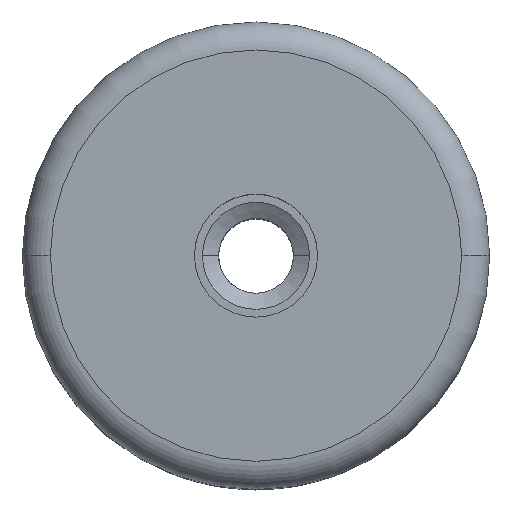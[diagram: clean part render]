
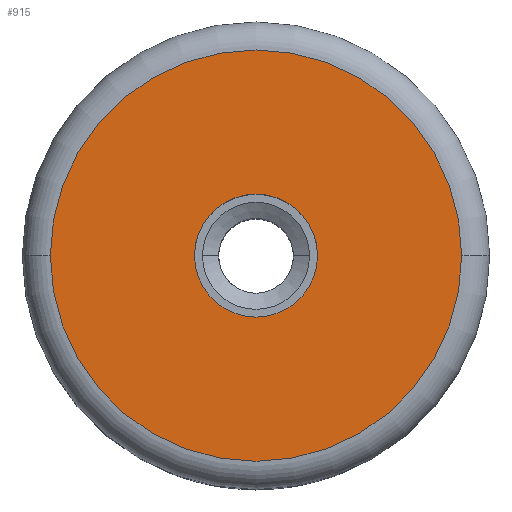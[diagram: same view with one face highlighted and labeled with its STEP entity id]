
A CAD part, top view. The second image highlights one B-rep face of the part: STEP entity #915.
In plain terms, the highlighted planar face has unit normal (0, 0, 1).
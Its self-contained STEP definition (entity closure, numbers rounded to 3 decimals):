
#20 = EDGE_CURVE ( 'NONE', #587, #79, #1091, .T. ) ;
#53 = DIRECTION ( 'NONE',  ( 1., 0., 0. ) ) ;
#56 = CIRCLE ( 'NONE', #460, 6.579 ) ;
#78 = CARTESIAN_POINT ( 'NONE',  ( 0., 0., 40. ) ) ;
#79 = VERTEX_POINT ( 'NONE', #112 ) ;
#84 = EDGE_CURVE ( 'NONE', #1092, #440, #56, .T. ) ;
#112 = CARTESIAN_POINT ( 'NONE',  ( 22., 0., 40. ) ) ;
#126 = ORIENTED_EDGE ( 'NONE', *, *, #819, .F. ) ;
#137 = CARTESIAN_POINT ( 'NONE',  ( -22., 0., 40. ) ) ;
#246 = DIRECTION ( 'NONE',  ( 0., 0., 1. ) ) ;
#280 = ORIENTED_EDGE ( 'NONE', *, *, #20, .T. ) ;
#440 = VERTEX_POINT ( 'NONE', #1067 ) ;
#460 = AXIS2_PLACEMENT_3D ( 'NONE', #725, #813, #803 ) ;
#513 = CIRCLE ( 'NONE', #619, 6.579 ) ;
#531 = AXIS2_PLACEMENT_3D ( 'NONE', #78, #246, #53 ) ;
#587 = VERTEX_POINT ( 'NONE', #137 ) ;
#615 = EDGE_CURVE ( 'NONE', #79, #587, #1503, .T. ) ;
#619 = AXIS2_PLACEMENT_3D ( 'NONE', #1164, #1161, #1151 ) ;
#663 = DIRECTION ( 'NONE',  ( -1., 0., 0. ) ) ;
#664 = DIRECTION ( 'NONE',  ( 0., 0., -1. ) ) ;
#668 = CARTESIAN_POINT ( 'NONE',  ( 0., 22., 40. ) ) ;
#695 = PLANE ( 'NONE',  #1179 ) ;
#716 = EDGE_LOOP ( 'NONE', ( #1449, #280 ) ) ;
#725 = CARTESIAN_POINT ( 'NONE',  ( 0., 0., 40. ) ) ;
#803 = DIRECTION ( 'NONE',  ( 1., 0., 0. ) ) ;
#813 = DIRECTION ( 'NONE',  ( 0., 0., 1. ) ) ;
#819 = EDGE_CURVE ( 'NONE', #440, #1092, #513, .T. ) ;
#915 = ADVANCED_FACE ( 'NONE', ( #1002, #955 ), #695, .F. ) ;
#955 = FACE_OUTER_BOUND ( 'NONE', #716, .T. ) ;
#1002 = FACE_BOUND ( 'NONE', #1487, .T. ) ;
#1067 = CARTESIAN_POINT ( 'NONE',  ( 6.579, 0., 40. ) ) ;
#1091 = CIRCLE ( 'NONE', #531, 22. ) ;
#1092 = VERTEX_POINT ( 'NONE', #1294 ) ;
#1151 = DIRECTION ( 'NONE',  ( 1., 0., 0. ) ) ;
#1161 = DIRECTION ( 'NONE',  ( 0., 0., 1. ) ) ;
#1164 = CARTESIAN_POINT ( 'NONE',  ( 0., 0., 40. ) ) ;
#1179 = AXIS2_PLACEMENT_3D ( 'NONE', #668, #664, #663 ) ;
#1294 = CARTESIAN_POINT ( 'NONE',  ( -6.579, 0., 40. ) ) ;
#1314 = AXIS2_PLACEMENT_3D ( 'NONE', #1534, #1531, #1528 ) ;
#1449 = ORIENTED_EDGE ( 'NONE', *, *, #615, .T. ) ;
#1487 = EDGE_LOOP ( 'NONE', ( #126, #1492 ) ) ;
#1492 = ORIENTED_EDGE ( 'NONE', *, *, #84, .F. ) ;
#1503 = CIRCLE ( 'NONE', #1314, 22. ) ;
#1528 = DIRECTION ( 'NONE',  ( 1., 0., 0. ) ) ;
#1531 = DIRECTION ( 'NONE',  ( 0., 0., 1. ) ) ;
#1534 = CARTESIAN_POINT ( 'NONE',  ( 0., 0., 40. ) ) ;
